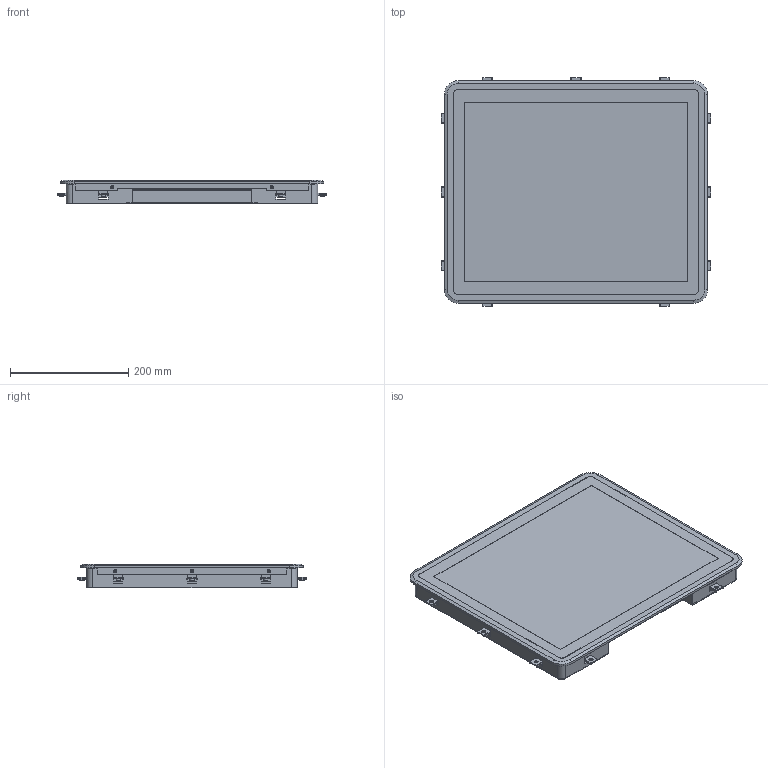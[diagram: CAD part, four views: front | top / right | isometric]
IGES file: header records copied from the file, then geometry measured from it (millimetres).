
Global section: file name: FIE190UM; native system: AutoCAD 2019 – 繁體中文 (Traditional Chinese),62HAutode; preprocessor: sk Translation Framework DWG producer (atf_dwg_producer); organization: unknown; date: 20210622.101654; units: millimetre
Bounding box: 456 x 387 x 40 mm (x, y, z)
Volume: 2127930 mm3; surface area: 1219571.8 mm2
Topology: 23 solids, 23 shells, 1499 faces, 3937 edges, 2648 vertices
Faces by surface type: bspline 1499
